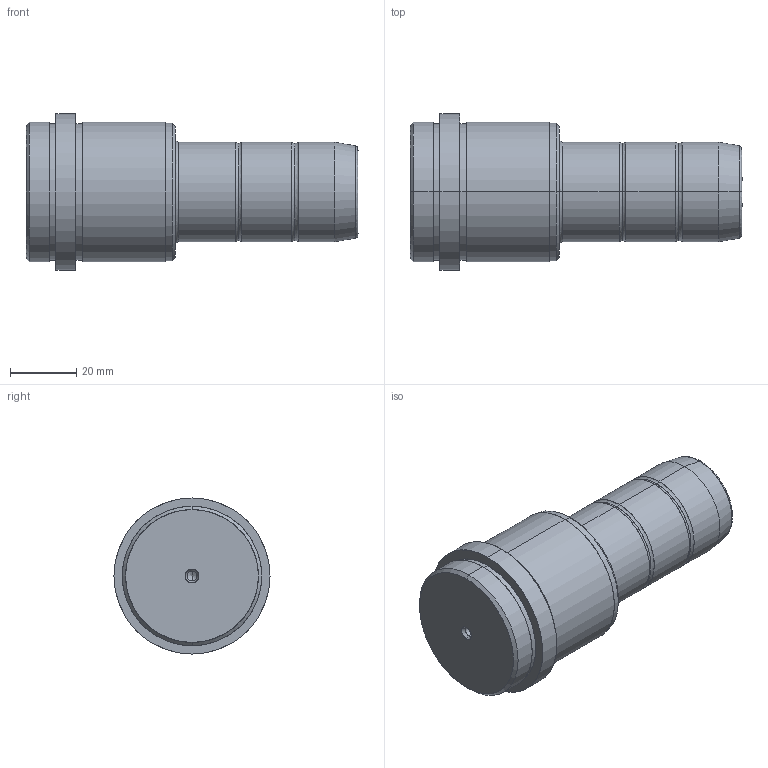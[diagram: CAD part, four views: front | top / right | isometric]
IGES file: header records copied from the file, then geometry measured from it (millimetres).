
Start section: SolidWorks IGES FILE using analytic representation for surfaces
Global section: file name: D:\zzzzz\Delta\D03\30\D03 - 30x36x55.IGS; native system: SolidWorks 2004 by SolidWorks Corporation; preprocessor: Version 5.3; author: Hkn; date: 080327.162908; units: millimetre
Bounding box: 100 x 47 x 47 mm (x, y, z)
Surface area: 14678.6 mm2 (no closed solid volume)
Topology: 0 solids, 0 shells, 56 faces, 1120 edges, 1116 vertices
Faces by surface type: revolution 36, bspline 20
